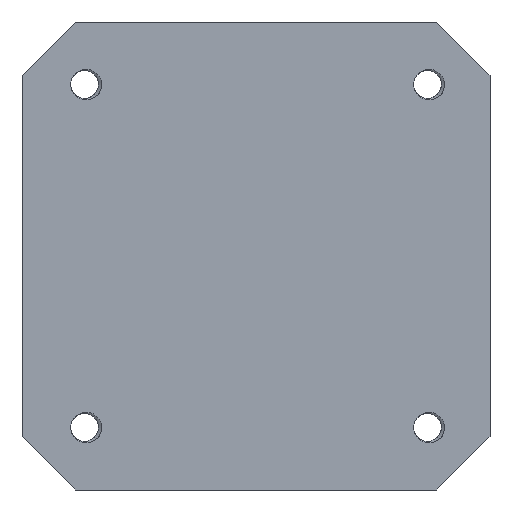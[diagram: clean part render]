
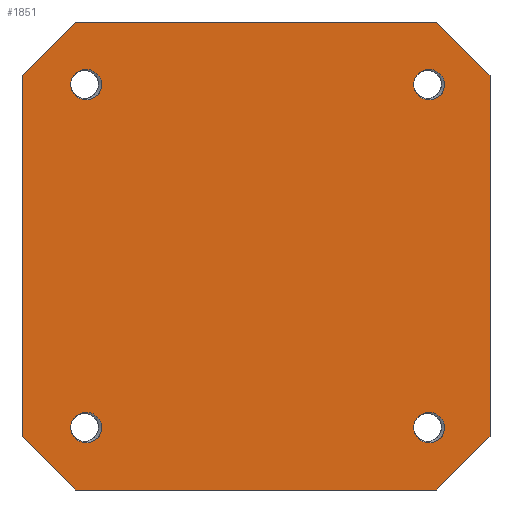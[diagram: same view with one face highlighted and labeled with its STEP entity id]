
A CAD part, front view. The second image highlights one B-rep face of the part: STEP entity #1851.
In plain terms, the highlighted planar face has unit normal (0, -1, 0).
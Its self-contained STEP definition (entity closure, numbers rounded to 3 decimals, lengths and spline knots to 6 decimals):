
#21=LINE('',#37833,#45);
#25=LINE('',#37841,#49);
#26=LINE('',#37843,#50);
#28=LINE('',#37847,#52);
#31=LINE('',#37853,#55);
#33=LINE('',#37857,#57);
#34=LINE('',#37859,#58);
#36=LINE('',#37863,#60);
#45=VECTOR('',#2020,1.);
#49=VECTOR('',#2026,1.);
#50=VECTOR('',#2029,1.);
#52=VECTOR('',#2033,1.);
#55=VECTOR('',#2038,1.);
#57=VECTOR('',#2042,1.);
#58=VECTOR('',#2045,1.);
#60=VECTOR('',#2049,1.);
#73=PLANE('',#1930);
#86=CIRCLE('',#1885,0.001265);
#88=CIRCLE('',#1888,0.001265);
#90=CIRCLE('',#1891,0.001265);
#92=CIRCLE('',#1894,0.001265);
#94=CIRCLE('',#1897,0.001543);
#96=CIRCLE('',#1900,0.001543);
#98=CIRCLE('',#1903,0.001543);
#100=CIRCLE('',#1906,0.001543);
#753=ORIENTED_EDGE('',*,*,#1110,.T.);
#754=ORIENTED_EDGE('',*,*,#1113,.F.);
#755=ORIENTED_EDGE('',*,*,#1111,.F.);
#756=ORIENTED_EDGE('',*,*,#1105,.F.);
#757=ORIENTED_EDGE('',*,*,#1098,.F.);
#758=ORIENTED_EDGE('',*,*,#1102,.F.);
#759=ORIENTED_EDGE('',*,*,#1103,.T.);
#760=ORIENTED_EDGE('',*,*,#1108,.F.);
#761=ORIENTED_EDGE('',*,*,#1070,.T.);
#762=ORIENTED_EDGE('',*,*,#796,.T.);
#763=ORIENTED_EDGE('',*,*,#1068,.T.);
#764=ORIENTED_EDGE('',*,*,#1048,.T.);
#765=ORIENTED_EDGE('',*,*,#1087,.T.);
#766=ORIENTED_EDGE('',*,*,#832,.T.);
#767=ORIENTED_EDGE('',*,*,#1086,.T.);
#768=ORIENTED_EDGE('',*,*,#1012,.T.);
#769=ORIENTED_EDGE('',*,*,#1089,.T.);
#770=ORIENTED_EDGE('',*,*,#868,.T.);
#771=ORIENTED_EDGE('',*,*,#1088,.T.);
#772=ORIENTED_EDGE('',*,*,#976,.T.);
#773=ORIENTED_EDGE('',*,*,#1091,.T.);
#774=ORIENTED_EDGE('',*,*,#904,.T.);
#775=ORIENTED_EDGE('',*,*,#1090,.T.);
#776=ORIENTED_EDGE('',*,*,#940,.T.);
#796=EDGE_CURVE('',#1132,#1131,#86,.T.);
#832=EDGE_CURVE('',#1168,#1167,#88,.T.);
#868=EDGE_CURVE('',#1204,#1203,#90,.T.);
#904=EDGE_CURVE('',#1240,#1239,#92,.T.);
#940=EDGE_CURVE('',#1276,#1275,#94,.T.);
#976=EDGE_CURVE('',#1312,#1311,#96,.T.);
#1012=EDGE_CURVE('',#1348,#1347,#98,.T.);
#1048=EDGE_CURVE('',#1384,#1383,#100,.T.);
#1068=EDGE_CURVE('',#1131,#1384,#1698,.T.);
#1070=EDGE_CURVE('',#1383,#1132,#1700,.T.);
#1086=EDGE_CURVE('',#1167,#1348,#1707,.T.);
#1087=EDGE_CURVE('',#1347,#1168,#1708,.T.);
#1088=EDGE_CURVE('',#1203,#1312,#1709,.T.);
#1089=EDGE_CURVE('',#1311,#1204,#1710,.T.);
#1090=EDGE_CURVE('',#1239,#1276,#1711,.T.);
#1091=EDGE_CURVE('',#1275,#1240,#1712,.T.);
#1098=EDGE_CURVE('',#1417,#1418,#21,.F.);
#1102=EDGE_CURVE('',#1419,#1417,#25,.F.);
#1103=EDGE_CURVE('',#1419,#1420,#26,.F.);
#1105=EDGE_CURVE('',#1418,#1421,#28,.F.);
#1108=EDGE_CURVE('',#1422,#1420,#31,.F.);
#1110=EDGE_CURVE('',#1422,#1423,#33,.F.);
#1111=EDGE_CURVE('',#1421,#1424,#34,.F.);
#1113=EDGE_CURVE('',#1424,#1423,#36,.F.);
#1131=VERTEX_POINT('',#2268);
#1132=VERTEX_POINT('',#2270);
#1167=VERTEX_POINT('',#2719);
#1168=VERTEX_POINT('',#2721);
#1203=VERTEX_POINT('',#3170);
#1204=VERTEX_POINT('',#3172);
#1239=VERTEX_POINT('',#3621);
#1240=VERTEX_POINT('',#3623);
#1275=VERTEX_POINT('',#4099);
#1276=VERTEX_POINT('',#4101);
#1311=VERTEX_POINT('',#4542);
#1312=VERTEX_POINT('',#4544);
#1347=VERTEX_POINT('',#4985);
#1348=VERTEX_POINT('',#4987);
#1383=VERTEX_POINT('',#5428);
#1384=VERTEX_POINT('',#5430);
#1417=VERTEX_POINT('',#37834);
#1418=VERTEX_POINT('',#37835);
#1419=VERTEX_POINT('',#37840);
#1420=VERTEX_POINT('',#37844);
#1421=VERTEX_POINT('',#37848);
#1422=VERTEX_POINT('',#37852);
#1423=VERTEX_POINT('',#37856);
#1424=VERTEX_POINT('',#37860);
#1698=B_SPLINE_CURVE_WITH_KNOTS('',3,(#9646,#9647,#9648,#9649,#9650),
 .UNSPECIFIED.,.F.,.F.,(4,1,4),(0.,0.5,1.),.UNSPECIFIED.);
#1700=B_SPLINE_CURVE_WITH_KNOTS('',3,(#13667,#13668,#13669,#13670,#13671),
 .UNSPECIFIED.,.F.,.F.,(4,1,4),(0.,0.5,1.),.UNSPECIFIED.);
#1707=B_SPLINE_CURVE_WITH_KNOTS('',3,(#17734,#17735,#17736,#17737,#17738),
 .UNSPECIFIED.,.F.,.F.,(4,1,4),(0.,0.5,1.),.UNSPECIFIED.);
#1708=B_SPLINE_CURVE_WITH_KNOTS('',3,(#21749,#21750,#21751,#21752,#21753),
 .UNSPECIFIED.,.F.,.F.,(4,1,4),(0.,0.5,1.),.UNSPECIFIED.);
#1709=B_SPLINE_CURVE_WITH_KNOTS('',3,(#25764,#25765,#25766,#25767,#25768),
 .UNSPECIFIED.,.F.,.F.,(4,1,4),(0.,0.5,1.),.UNSPECIFIED.);
#1710=B_SPLINE_CURVE_WITH_KNOTS('',3,(#29779,#29780,#29781,#29782,#29783),
 .UNSPECIFIED.,.F.,.F.,(4,1,4),(0.,0.5,1.),.UNSPECIFIED.);
#1711=B_SPLINE_CURVE_WITH_KNOTS('',3,(#33794,#33795,#33796,#33797,#33798),
 .UNSPECIFIED.,.F.,.F.,(4,1,4),(0.,0.5,1.),.UNSPECIFIED.);
#1712=B_SPLINE_CURVE_WITH_KNOTS('',3,(#37809,#37810,#37811,#37812,#37813),
 .UNSPECIFIED.,.F.,.F.,(4,1,4),(0.,0.5,1.),.UNSPECIFIED.);
#1754=EDGE_LOOP('',(#753,#754,#755,#756,#757,#758,#759,#760));
#1755=EDGE_LOOP('',(#761,#762,#763,#764));
#1756=EDGE_LOOP('',(#765,#766,#767,#768));
#1757=EDGE_LOOP('',(#769,#770,#771,#772));
#1758=EDGE_LOOP('',(#773,#774,#775,#776));
#1802=FACE_BOUND('',#1754,.T.);
#1803=FACE_BOUND('',#1755,.T.);
#1804=FACE_BOUND('',#1756,.T.);
#1805=FACE_BOUND('',#1757,.T.);
#1806=FACE_BOUND('',#1758,.T.);
#1851=ADVANCED_FACE('',(#1802,#1803,#1804,#1805,#1806),#73,.F.);
#1885=AXIS2_PLACEMENT_3D('',#2269,#1936,#1937);
#1888=AXIS2_PLACEMENT_3D('',#2720,#1942,#1943);
#1891=AXIS2_PLACEMENT_3D('',#3171,#1948,#1949);
#1894=AXIS2_PLACEMENT_3D('',#3622,#1954,#1955);
#1897=AXIS2_PLACEMENT_3D('',#4100,#1960,#1961);
#1900=AXIS2_PLACEMENT_3D('',#4543,#1966,#1967);
#1903=AXIS2_PLACEMENT_3D('',#4986,#1972,#1973);
#1906=AXIS2_PLACEMENT_3D('',#5429,#1978,#1979);
#1930=AXIS2_PLACEMENT_3D('',#37864,#2050,#2051);
#1936=DIRECTION('',(0.,1.,0.));
#1937=DIRECTION('',(0.,0.,1.));
#1942=DIRECTION('',(0.,1.,0.));
#1943=DIRECTION('',(0.,0.,1.));
#1948=DIRECTION('',(0.,1.,0.));
#1949=DIRECTION('',(0.,0.,1.));
#1954=DIRECTION('',(0.,1.,0.));
#1955=DIRECTION('',(0.,0.,1.));
#1960=DIRECTION('',(0.,1.,0.));
#1961=DIRECTION('',(0.,0.,1.));
#1966=DIRECTION('',(0.,1.,0.));
#1967=DIRECTION('',(0.,0.,1.));
#1972=DIRECTION('',(0.,1.,0.));
#1973=DIRECTION('',(0.,0.,1.));
#1978=DIRECTION('',(0.,1.,0.));
#1979=DIRECTION('',(0.,0.,1.));
#2020=DIRECTION('',(0.,0.,1.));
#2026=DIRECTION('',(-0.707,0.,0.707));
#2029=DIRECTION('',(1.,0.,0.));
#2033=DIRECTION('',(0.707,0.,0.707));
#2038=DIRECTION('',(-0.707,0.,-0.707));
#2042=DIRECTION('',(0.,0.,1.));
#2045=DIRECTION('',(1.,0.,0.));
#2049=DIRECTION('',(0.707,0.,-0.707));
#2050=DIRECTION('',(0.,1.,0.));
#2051=DIRECTION('',(0.,0.,1.));
#2268=CARTESIAN_POINT('',(-0.016325,0.032,0.016458));
#2269=CARTESIAN_POINT('',(-0.0155,0.032,0.0155));
#2270=CARTESIAN_POINT('',(-0.016326,0.032,0.014541));
#2719=CARTESIAN_POINT('',(0.014675,0.032,0.016458));
#2720=CARTESIAN_POINT('',(0.0155,0.032,0.0155));
#2721=CARTESIAN_POINT('',(0.014674,0.032,0.014541));
#3170=CARTESIAN_POINT('',(0.014675,0.032,-0.014542));
#3171=CARTESIAN_POINT('',(0.0155,0.032,-0.0155));
#3172=CARTESIAN_POINT('',(0.014674,0.032,-0.016459));
#3621=CARTESIAN_POINT('',(-0.016325,0.032,-0.014542));
#3622=CARTESIAN_POINT('',(-0.0155,0.032,-0.0155));
#3623=CARTESIAN_POINT('',(-0.016326,0.032,-0.016459));
#4099=CARTESIAN_POINT('',(-0.014009,0.032,-0.015899));
#4100=CARTESIAN_POINT('',(-0.0155,0.032,-0.0155));
#4101=CARTESIAN_POINT('',(-0.014008,0.032,-0.015101));
#4542=CARTESIAN_POINT('',(0.016991,0.032,-0.015899));
#4543=CARTESIAN_POINT('',(0.0155,0.032,-0.0155));
#4544=CARTESIAN_POINT('',(0.016992,0.032,-0.015101));
#4985=CARTESIAN_POINT('',(0.016991,0.032,0.015101));
#4986=CARTESIAN_POINT('',(0.0155,0.032,0.0155));
#4987=CARTESIAN_POINT('',(0.016992,0.032,0.015899));
#5428=CARTESIAN_POINT('',(-0.014009,0.032,0.015101));
#5429=CARTESIAN_POINT('',(-0.0155,0.032,0.0155));
#5430=CARTESIAN_POINT('',(-0.014008,0.032,0.015899));
#9646=CARTESIAN_POINT('',(-0.016325,0.032,0.016458));
#9647=CARTESIAN_POINT('',(-0.016003,0.032,0.016804));
#9648=CARTESIAN_POINT('',(-0.014947,0.032,0.01708));
#9649=CARTESIAN_POINT('',(-0.014169,0.032,0.016346));
#9650=CARTESIAN_POINT('',(-0.014007,0.032,0.0159));
#13667=CARTESIAN_POINT('',(-0.014009,0.032,0.015101));
#13668=CARTESIAN_POINT('',(-0.014173,0.032,0.014654));
#13669=CARTESIAN_POINT('',(-0.014942,0.032,0.013921));
#13670=CARTESIAN_POINT('',(-0.016007,0.032,0.014196));
#13671=CARTESIAN_POINT('',(-0.016327,0.032,0.01454));
#17734=CARTESIAN_POINT('',(0.014675,0.032,0.016458));
#17735=CARTESIAN_POINT('',(0.014997,0.032,0.016804));
#17736=CARTESIAN_POINT('',(0.016053,0.032,0.01708));
#17737=CARTESIAN_POINT('',(0.016831,0.032,0.016346));
#17738=CARTESIAN_POINT('',(0.016993,0.032,0.0159));
#21749=CARTESIAN_POINT('',(0.016991,0.032,0.015101));
#21750=CARTESIAN_POINT('',(0.016827,0.032,0.014654));
#21751=CARTESIAN_POINT('',(0.016058,0.032,0.013921));
#21752=CARTESIAN_POINT('',(0.014993,0.032,0.014196));
#21753=CARTESIAN_POINT('',(0.014673,0.032,0.01454));
#25764=CARTESIAN_POINT('',(0.014675,0.032,-0.014542));
#25765=CARTESIAN_POINT('',(0.014997,0.032,-0.014196));
#25766=CARTESIAN_POINT('',(0.016053,0.032,-0.01392));
#25767=CARTESIAN_POINT('',(0.016831,0.032,-0.014654));
#25768=CARTESIAN_POINT('',(0.016993,0.032,-0.0151));
#29779=CARTESIAN_POINT('',(0.016991,0.032,-0.015899));
#29780=CARTESIAN_POINT('',(0.016827,0.032,-0.016346));
#29781=CARTESIAN_POINT('',(0.016058,0.032,-0.017079));
#29782=CARTESIAN_POINT('',(0.014993,0.032,-0.016804));
#29783=CARTESIAN_POINT('',(0.014673,0.032,-0.01646));
#33794=CARTESIAN_POINT('',(-0.016325,0.032,-0.014542));
#33795=CARTESIAN_POINT('',(-0.016003,0.032,-0.014196));
#33796=CARTESIAN_POINT('',(-0.014947,0.032,-0.01392));
#33797=CARTESIAN_POINT('',(-0.014169,0.032,-0.014654));
#33798=CARTESIAN_POINT('',(-0.014007,0.032,-0.0151));
#37809=CARTESIAN_POINT('',(-0.014009,0.032,-0.015899));
#37810=CARTESIAN_POINT('',(-0.014173,0.032,-0.016346));
#37811=CARTESIAN_POINT('',(-0.014942,0.032,-0.017079));
#37812=CARTESIAN_POINT('',(-0.016007,0.032,-0.016804));
#37813=CARTESIAN_POINT('',(-0.016327,0.032,-0.01646));
#37833=CARTESIAN_POINT('',(0.02115,0.032,0.016327));
#37834=CARTESIAN_POINT('',(0.02115,0.032,0.016327));
#37835=CARTESIAN_POINT('',(0.02115,0.032,-0.016327));
#37840=CARTESIAN_POINT('',(0.016327,0.032,0.02115));
#37841=CARTESIAN_POINT('',(0.02115,0.032,0.016327));
#37843=CARTESIAN_POINT('',(0.,0.032,0.02115));
#37844=CARTESIAN_POINT('',(-0.016327,0.032,0.02115));
#37847=CARTESIAN_POINT('',(0.016327,0.032,-0.02115));
#37848=CARTESIAN_POINT('',(0.016327,0.032,-0.02115));
#37852=CARTESIAN_POINT('',(-0.02115,0.032,0.016327));
#37853=CARTESIAN_POINT('',(-0.02115,0.032,0.016327));
#37856=CARTESIAN_POINT('',(-0.02115,0.032,-0.016327));
#37857=CARTESIAN_POINT('',(-0.02115,0.032,0.));
#37859=CARTESIAN_POINT('',(-0.016327,0.032,-0.02115));
#37860=CARTESIAN_POINT('',(-0.016327,0.032,-0.02115));
#37863=CARTESIAN_POINT('',(-0.016327,0.032,-0.02115));
#37864=CARTESIAN_POINT('',(0.,0.032,0.));
